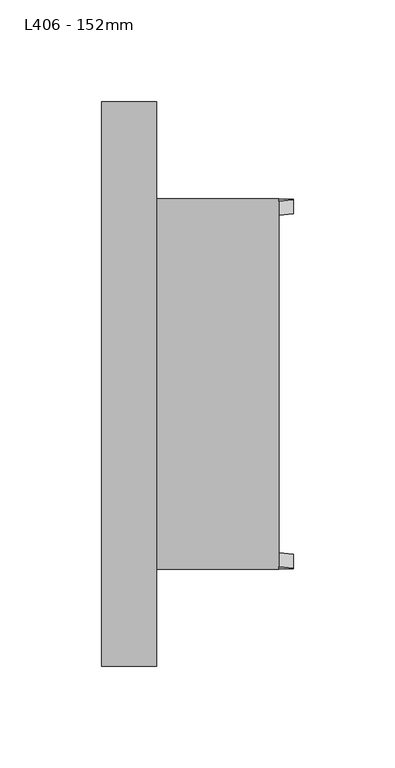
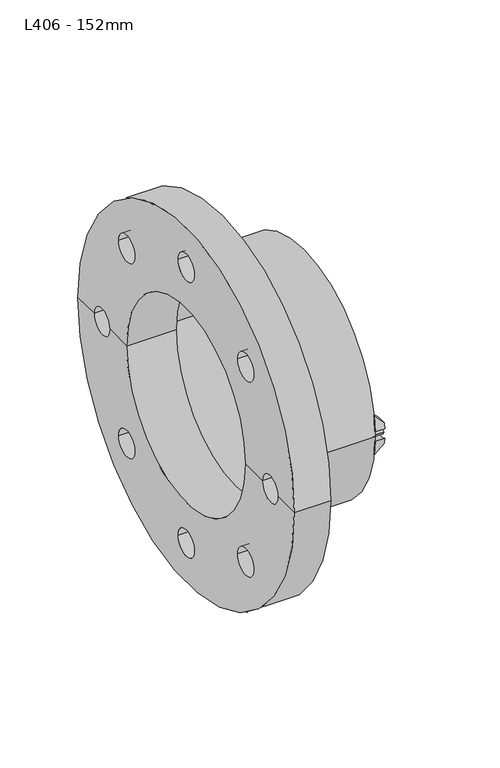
"""IFC4 building model written with IfcOpenShell, lengths in millimetres: pipe fitting geometry, Durapipe_PipeFitting_VulcatheneEnfusion_Flange_L40 : L406 - 152mm."""

from ifc_helpers import new_model, si_unit, point, frame, frame_2d, origin, place, context, project, spatial, polyline, circle_curve, ellipse_curve, trimmed, segment, composite_curve, outline, extrude, source, transform, mapped, element, save
from ifc_brep_helpers import plane_surface, cylinder_surface, revolved_surface, advanced_brep


def l406_152mm_0153d5b7(model_context):
    return source(origin(), model_context, "Body", "SolidModel", [
        advanced_brep(
        [(50.75, -84.1733314, -3.5934351), (50.75, -90.9733314, -3.7357018), (50.75, -90.7031361, -7.94), (50.75, -83.8750195, -7.94), (43.65, -89.8059157, -15.0), (43.65, -90.9733314, -3.7357018), (43.65, -84.1733314, -3.5934351), (43.65, -82.9039354, -15.0)],
        [
            (0, 1, circle_curve(frame((50.75, -87.65, 0.0), z_axis=(-1.0, 0.0, 0.0), x_axis=(0.0, 1.0, 0.0)), 5.0)),
            (1, 2, circle_curve(frame((50.75, 0.0, 0.0), z_axis=(1.0, 0.0, 0.0), x_axis=(0.0, 1.0, 0.0)), 91.05)),
            (2, 3),
            (3, 0, circle_curve(frame((50.75, 0.0, 0.0), z_axis=(-1.0, 0.0, 0.0), x_axis=(0.0, 1.0, 0.0)), 84.25)),
            (4, 5, circle_curve(frame((43.65, 0.0, 0.0), z_axis=(-1.0, 0.0, 0.0), x_axis=(0.0, 1.0, 0.0)), 91.05)),
            (5, 6, circle_curve(frame((43.65, -87.65, 0.0), z_axis=(1.0, 0.0, 0.0), x_axis=(0.0, 1.0, 0.0)), 5.0)),
            (6, 7, circle_curve(frame((43.65, 0.0, 0.0), z_axis=(1.0, 0.0, 0.0), x_axis=(0.0, 1.0, 0.0)), 84.25)),
            (7, 4),
            (6, 0),
            (3, 7, ellipse_curve(frame((58.7349858, 0.0, 0.0), z_axis=(0.7051064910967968, 0.0, -0.7091014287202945), x_axis=(-0.7091014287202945, 0.0, -0.7051064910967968)), 119.4854977, 84.25)),
            (4, 2, ellipse_curve(frame((58.7349858, 0.0, 0.0), z_axis=(-0.7051064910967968, 0.0, 0.7091014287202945), x_axis=(0.7091014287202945, 0.0, 0.7051064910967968)), 129.129431, 91.05)),
            (1, 5),
        ],
        [
            plane_surface(frame((50.75, -89.8059157, -15.0), z_axis=(1.0, 0.0, 0.0), x_axis=(0.0, 1.0, 0.0))),
            plane_surface(frame((43.65, -89.8059157, -15.0), z_axis=(-1.0, 0.0, 0.0), x_axis=(0.0, -1.0, 0.0))),
            revolved_surface(polyline([(-25.992351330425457, 84.25, 0.0), (143.46232293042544, 84.25, 0.0)]), (43.65, 0.0, 0.0), (-1.0, 0.0, 0.0)),
            cylinder_surface(frame((43.65, 0.0, 0.0), z_axis=(1.0, 0.0, 0.0), x_axis=(0.0, 1.0, 0.0)), 91.05),
            revolved_surface(polyline([(50.75, -82.65, 0.0), (43.65, -82.65, 0.0)]), (43.65, -87.65, 0.0), (1.0, 0.0, 0.0)),
            plane_surface(frame((43.65, 91.05, -15.0), z_axis=(0.7051064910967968, 0.0, -0.7091014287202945), x_axis=(0.0, -1.0, 0.0))),
        ],
        [
            (0, [[1, 2, 3, 4]]),
            (1, [[5, 6, 7, 8]]),
            (2, [[-7, 9, -4, 10]]),
            (3, [[-5, 11, -2, 12]]),
            (4, [[-1, -9, -6, -12]]),
            (5, [[-3, -11, -8, -10]]),
        ],
    ),
        advanced_brep(
        [(50.75, -90.9733314, 3.7357018), (50.75, -84.1733314, 3.5934351), (50.75, -83.8750195, 7.94), (50.75, -90.7031361, 7.94), (43.65, -90.9733314, 3.7357018), (43.65, -89.8059157, 15.0), (43.65, -82.9039354, 15.0), (43.65, -84.1733314, 3.5934351)],
        [
            (0, 1, circle_curve(frame((50.75, -87.65, 0.0), z_axis=(-1.0, 0.0, 0.0), x_axis=(0.0, 1.0, 0.0)), 5.0)),
            (1, 2, circle_curve(frame((50.75, 0.0, 0.0), z_axis=(-1.0, 0.0, 0.0), x_axis=(0.0, 1.0, 0.0)), 84.25)),
            (2, 3),
            (3, 0, circle_curve(frame((50.75, 0.0, 0.0), z_axis=(1.0, 0.0, 0.0), x_axis=(0.0, 1.0, 0.0)), 91.05)),
            (4, 5, circle_curve(frame((43.65, 0.0, 0.0), z_axis=(-1.0, 0.0, 0.0), x_axis=(0.0, 1.0, 0.0)), 91.05)),
            (5, 6),
            (6, 7, circle_curve(frame((43.65, 0.0, 0.0), z_axis=(1.0, 0.0, 0.0), x_axis=(0.0, 1.0, 0.0)), 84.25)),
            (7, 4, circle_curve(frame((43.65, -87.65, 0.0), z_axis=(1.0, 0.0, 0.0), x_axis=(0.0, 1.0, 0.0)), 5.0)),
            (6, 2, ellipse_curve(frame((58.7349858, 0.0, 0.0), z_axis=(0.7051064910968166, 0.0, 0.7091014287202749), x_axis=(-0.7091014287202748, 0.0, 0.7051064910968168)), 119.4854977, 84.25)),
            (1, 7),
            (4, 0),
            (3, 5, ellipse_curve(frame((58.7349858, 0.0, 0.0), z_axis=(-0.7051064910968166, 0.0, -0.7091014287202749), x_axis=(0.7091014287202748, 0.0, -0.7051064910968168)), 129.129431, 91.05)),
        ],
        [
            plane_surface(frame((50.75, -89.8059157, -15.0), z_axis=(1.0, 0.0, 0.0), x_axis=(0.0, 1.0, 0.0))),
            plane_surface(frame((43.65, -89.8059157, -15.0), z_axis=(-1.0, 0.0, 0.0), x_axis=(0.0, -1.0, 0.0))),
            revolved_surface(polyline([(-25.992351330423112, 84.25, 0.0), (143.4623229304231, 84.25, 0.0)]), (43.65, 0.0, 0.0), (-1.0, 0.0, 0.0)),
            cylinder_surface(frame((43.65, 0.0, 0.0), z_axis=(1.0, 0.0, 0.0), x_axis=(0.0, 1.0, 0.0)), 91.05),
            revolved_surface(polyline([(50.75, -82.65, 0.0), (43.65, -82.65, 0.0)]), (43.65, -87.65, 0.0), (1.0, 0.0, 0.0)),
            plane_surface(frame((50.75, 91.05, 7.94), z_axis=(0.7051064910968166, 0.0, 0.7091014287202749), x_axis=(0.0, -1.0, 0.0))),
        ],
        [
            (0, [[1, 2, 3, 4]]),
            (1, [[5, 6, 7, 8]]),
            (2, [[-7, 9, -2, 10]]),
            (3, [[-5, 11, -4, 12]]),
            (4, [[-1, -11, -8, -10]]),
            (5, [[-3, -9, -6, -12]]),
        ],
    ),
        advanced_brep(
        [(50.75, 90.9733314, -3.7357018), (50.75, 84.1733314, -3.5934351), (50.75, 83.8750195, -7.94), (50.75, 90.7031361, -7.94), (43.65, 90.9733314, -3.7357018), (43.65, 89.8059157, -15.0), (43.65, 82.9039354, -15.0), (43.65, 84.1733314, -3.5934351)],
        [
            (0, 1, circle_curve(frame((50.75, 87.65, 0.0), z_axis=(-1.0, 0.0, 0.0), x_axis=(0.0, 1.0, 0.0)), 5.0)),
            (1, 2, circle_curve(frame((50.75, 0.0, 0.0), z_axis=(-1.0, 0.0, 0.0), x_axis=(0.0, 1.0, 0.0)), 84.25)),
            (2, 3),
            (3, 0, circle_curve(frame((50.75, 0.0, 0.0), z_axis=(1.0, 0.0, 0.0), x_axis=(0.0, 1.0, 0.0)), 91.05)),
            (4, 5, circle_curve(frame((43.65, 0.0, 0.0), z_axis=(-1.0, 0.0, 0.0), x_axis=(0.0, 1.0, 0.0)), 91.05)),
            (5, 6),
            (6, 7, circle_curve(frame((43.65, 0.0, 0.0), z_axis=(1.0, 0.0, 0.0), x_axis=(0.0, 1.0, 0.0)), 84.25)),
            (7, 4, circle_curve(frame((43.65, 87.65, 0.0), z_axis=(1.0, 0.0, 0.0), x_axis=(0.0, 1.0, 0.0)), 5.0)),
            (6, 2, ellipse_curve(frame((58.7349858, 0.0, 0.0), z_axis=(0.7051064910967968, 0.0, -0.7091014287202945), x_axis=(-0.7091014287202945, 0.0, -0.7051064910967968)), 119.4854977, 84.25)),
            (1, 7),
            (4, 0),
            (3, 5, ellipse_curve(frame((58.7349858, 0.0, 0.0), z_axis=(-0.7051064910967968, 0.0, 0.7091014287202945), x_axis=(0.7091014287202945, 0.0, 0.7051064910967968)), 129.129431, 91.05)),
        ],
        [
            plane_surface(frame((50.75, -89.8059157, -15.0), z_axis=(1.0, 0.0, 0.0), x_axis=(0.0, 1.0, 0.0))),
            plane_surface(frame((43.65, -89.8059157, -15.0), z_axis=(-1.0, 0.0, 0.0), x_axis=(0.0, -1.0, 0.0))),
            revolved_surface(polyline([(-25.992351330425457, 84.25, 0.0), (143.46232293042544, 84.25, 0.0)]), (43.65, 0.0, 0.0), (-1.0, 0.0, 0.0)),
            cylinder_surface(frame((43.65, 0.0, 0.0), z_axis=(1.0, 0.0, 0.0), x_axis=(0.0, 1.0, 0.0)), 91.05),
            revolved_surface(polyline([(50.75, 92.65, 0.0), (43.65, 92.65, 0.0)]), (43.65, 87.65, 0.0), (1.0, 0.0, 0.0)),
            plane_surface(frame((43.65, 91.05, -15.0), z_axis=(0.7051064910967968, 0.0, -0.7091014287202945), x_axis=(0.0, -1.0, 0.0))),
        ],
        [
            (0, [[1, 2, 3, 4]]),
            (1, [[5, 6, 7, 8]]),
            (2, [[-7, 9, -2, 10]]),
            (3, [[-5, 11, -4, 12]]),
            (4, [[-1, -11, -8, -10]]),
            (5, [[-3, -9, -6, -12]]),
        ],
    ),
        advanced_brep(
        [(50.75, 84.1733314, 3.5934351), (50.75, 90.9733314, 3.7357018), (50.75, 90.7031361, 7.94), (50.75, 83.8750195, 7.94), (43.65, 89.8059157, 15.0), (43.65, 90.9733314, 3.7357018), (43.65, 84.1733314, 3.5934351), (43.65, 82.9039354, 15.0)],
        [
            (0, 1, circle_curve(frame((50.75, 87.65, 0.0), z_axis=(-1.0, 0.0, 0.0), x_axis=(0.0, 1.0, 0.0)), 5.0)),
            (1, 2, circle_curve(frame((50.75, 0.0, 0.0), z_axis=(1.0, 0.0, 0.0), x_axis=(0.0, 1.0, 0.0)), 91.05)),
            (2, 3),
            (3, 0, circle_curve(frame((50.75, 0.0, 0.0), z_axis=(-1.0, 0.0, 0.0), x_axis=(0.0, 1.0, 0.0)), 84.25)),
            (4, 5, circle_curve(frame((43.65, 0.0, 0.0), z_axis=(-1.0, 0.0, 0.0), x_axis=(0.0, 1.0, 0.0)), 91.05)),
            (5, 6, circle_curve(frame((43.65, 87.65, 0.0), z_axis=(1.0, 0.0, 0.0), x_axis=(0.0, 1.0, 0.0)), 5.0)),
            (6, 7, circle_curve(frame((43.65, 0.0, 0.0), z_axis=(1.0, 0.0, 0.0), x_axis=(0.0, 1.0, 0.0)), 84.25)),
            (7, 4),
            (6, 0),
            (3, 7, ellipse_curve(frame((58.7349858, 0.0, 0.0), z_axis=(0.7051064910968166, 0.0, 0.7091014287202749), x_axis=(-0.7091014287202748, 0.0, 0.7051064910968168)), 119.4854977, 84.25)),
            (4, 2, ellipse_curve(frame((58.7349858, 0.0, 0.0), z_axis=(-0.7051064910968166, 0.0, -0.7091014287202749), x_axis=(0.7091014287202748, 0.0, -0.7051064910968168)), 129.129431, 91.05)),
            (1, 5),
        ],
        [
            plane_surface(frame((50.75, -89.8059157, -15.0), z_axis=(1.0, 0.0, 0.0), x_axis=(0.0, 1.0, 0.0))),
            plane_surface(frame((43.65, -89.8059157, -15.0), z_axis=(-1.0, 0.0, 0.0), x_axis=(0.0, -1.0, 0.0))),
            revolved_surface(polyline([(-25.992351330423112, 84.25, 0.0), (143.4623229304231, 84.25, 0.0)]), (43.65, 0.0, 0.0), (-1.0, 0.0, 0.0)),
            cylinder_surface(frame((43.65, 0.0, 0.0), z_axis=(1.0, 0.0, 0.0), x_axis=(0.0, 1.0, 0.0)), 91.05),
            revolved_surface(polyline([(50.75, 92.65, 0.0), (43.65, 92.65, 0.0)]), (43.65, 87.65, 0.0), (1.0, 0.0, 0.0)),
            plane_surface(frame((50.75, 91.05, 7.94), z_axis=(0.7051064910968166, 0.0, 0.7091014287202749), x_axis=(0.0, -1.0, 0.0))),
        ],
        [
            (0, [[1, 2, 3, 4]]),
            (1, [[5, 6, 7, 8]]),
            (2, [[-7, 9, -4, 10]]),
            (3, [[-5, 11, -2, 12]]),
            (4, [[-1, -9, -6, -12]]),
            (5, [[-3, -11, -8, -10]]),
        ],
    ),
        extrude(outline(composite_curve([segment(trimmed(circle_curve(frame_2d((-87.65, 0.0)), 2.0), [point((-89.65, 0.0))], [point((-85.65, 0.0))], False, "CARTESIAN"), True, "CONTINUOUS"), segment(trimmed(circle_curve(frame_2d((-87.65, 0.0)), 2.0), [point((-85.65, 0.0))], [point((-89.65, 0.0))], False, "CARTESIAN"), True, "CONTINUOUS")], self_intersect=False)), frame((43.65, 0.0, 0.0), z_axis=(1.0, 0.0, 0.0), x_axis=(0.0, 1.0, 0.0)), (0.0, 0.0, 1.0), 7.1),
        extrude(outline(composite_curve([segment(trimmed(circle_curve(frame_2d((87.65, 0.0)), 2.0), [point((85.65, 0.0))], [point((89.65, 0.0))], False, "CARTESIAN"), True, "CONTINUOUS"), segment(trimmed(circle_curve(frame_2d((87.65, 0.0)), 2.0), [point((89.65, 0.0))], [point((85.65, 0.0))], False, "CARTESIAN"), True, "CONTINUOUS")], self_intersect=False)), frame((43.65, 0.0, 0.0), z_axis=(1.0, 0.0, 0.0), x_axis=(0.0, 1.0, 0.0)), (0.0, 0.0, 1.0), 7.1),
        advanced_brep(
        [(-43.65, -76.3, 0.0), (-43.65, 76.3, 0.0), (-43.65, 97.7, 0.0), (-43.65, 118.3, 0.0), (-43.65, 138.9, 0.0), (-43.65, -138.9, 0.0), (-43.65, -118.3, 0.0), (-43.65, -97.7, 0.0), (-43.65, -10.3, -108.0), (-43.65, 10.3, -108.0), (-43.65, -86.6675324, -76.3675324), (-43.65, -66.0675324, -76.3675324), (-43.65, 66.0675324, -76.3675324), (-43.65, 86.6675324, -76.3675324), (-43.65, -10.3, 108.0), (-43.65, 10.3, 108.0), (-43.65, 66.0675324, 76.3675324), (-43.65, 86.6675324, 76.3675324), (-43.65, -86.6675324, 76.3675324), (-43.65, -66.0675324, 76.3675324), (-7.15, -76.3, 0.0), (-7.15, 76.3, 0.0), (-7.15, -84.1, 0.0), (-7.15, 84.1, 0.0), (43.65, -84.1, 0.0), (43.65, 84.1, 0.0), (43.65, -91.2, 0.0), (43.65, 91.2, 0.0), (-16.65, -91.2, 0.0), (-16.65, 91.2, 0.0), (-16.65, -97.7, 0.0), (-16.65, -118.3, 0.0), (-16.65, -138.9, 0.0), (-16.65, 138.9, 0.0), (-16.65, 118.3, 0.0), (-16.65, 97.7, 0.0), (-16.65, 10.3, -108.0), (-16.65, -10.3, -108.0), (-16.65, -66.0675324, -76.3675324), (-16.65, -86.6675324, -76.3675324), (-16.65, 86.6675324, -76.3675324), (-16.65, 66.0675324, -76.3675324), (-16.65, 10.3, 108.0), (-16.65, -10.3, 108.0), (-16.65, 86.6675324, 76.3675324), (-16.65, 66.0675324, 76.3675324), (-16.65, -66.0675324, 76.3675324), (-16.65, -86.6675324, 76.3675324)],
        [
            (0, 1, circle_curve(frame((-43.65, 0.0, 0.0), z_axis=(1.0, 0.0, 0.0), x_axis=(0.0, 1.0, 0.0)), 76.3)),
            (1, 2),
            (2, 3, circle_curve(frame((-43.65, 108.0, 0.0), z_axis=(1.0, 0.0, 0.0), x_axis=(0.0, 1.0, 0.0)), 10.3)),
            (3, 4),
            (4, 5, circle_curve(frame((-43.65, 0.0, 0.0), z_axis=(-1.0, 0.0, 0.0), x_axis=(0.0, 1.0, 0.0)), 138.9)),
            (5, 6),
            (6, 7, circle_curve(frame((-43.65, -108.0, 0.0), z_axis=(1.0, 0.0, 0.0), x_axis=(0.0, 1.0, 0.0)), 10.3)),
            (7, 0),
            (8, 9, circle_curve(frame((-43.65, 0.0, -108.0), z_axis=(1.0, 0.0, 0.0), x_axis=(0.0, 1.0, 0.0)), 10.3)),
            (9, 8, circle_curve(frame((-43.65, 0.0, -108.0), z_axis=(1.0, 0.0, 0.0), x_axis=(0.0, 1.0, 0.0)), 10.3)),
            (10, 11, circle_curve(frame((-43.65, -76.3675324, -76.3675324), z_axis=(1.0, 0.0, 0.0), x_axis=(0.0, 1.0, 0.0)), 10.3)),
            (11, 10, circle_curve(frame((-43.65, -76.3675324, -76.3675324), z_axis=(1.0, 0.0, 0.0), x_axis=(0.0, 1.0, 0.0)), 10.3)),
            (12, 13, circle_curve(frame((-43.65, 76.3675324, -76.3675324), z_axis=(1.0, 0.0, 0.0), x_axis=(0.0, 1.0, 0.0)), 10.3)),
            (13, 12, circle_curve(frame((-43.65, 76.3675324, -76.3675324), z_axis=(1.0, 0.0, 0.0), x_axis=(0.0, 1.0, 0.0)), 10.3)),
            (1, 0, circle_curve(frame((-43.65, 0.0, 0.0), z_axis=(1.0, 0.0, 0.0), x_axis=(0.0, 1.0, 0.0)), 76.3)),
            (7, 6, circle_curve(frame((-43.65, -108.0, 0.0), z_axis=(1.0, 0.0, 0.0), x_axis=(0.0, 1.0, 0.0)), 10.3)),
            (5, 4, circle_curve(frame((-43.65, 0.0, 0.0), z_axis=(-1.0, 0.0, 0.0), x_axis=(0.0, 1.0, 0.0)), 138.9)),
            (3, 2, circle_curve(frame((-43.65, 108.0, 0.0), z_axis=(1.0, 0.0, 0.0), x_axis=(0.0, 1.0, 0.0)), 10.3)),
            (14, 15, circle_curve(frame((-43.65, 0.0, 108.0), z_axis=(1.0, 0.0, 0.0), x_axis=(0.0, 1.0, 0.0)), 10.3)),
            (15, 14, circle_curve(frame((-43.65, 0.0, 108.0), z_axis=(1.0, 0.0, 0.0), x_axis=(0.0, 1.0, 0.0)), 10.3)),
            (16, 17, circle_curve(frame((-43.65, 76.3675324, 76.3675324), z_axis=(1.0, 0.0, 0.0), x_axis=(0.0, 1.0, 0.0)), 10.3)),
            (17, 16, circle_curve(frame((-43.65, 76.3675324, 76.3675324), z_axis=(1.0, 0.0, 0.0), x_axis=(0.0, 1.0, 0.0)), 10.3)),
            (18, 19, circle_curve(frame((-43.65, -76.3675324, 76.3675324), z_axis=(1.0, 0.0, 0.0), x_axis=(0.0, 1.0, 0.0)), 10.3)),
            (19, 18, circle_curve(frame((-43.65, -76.3675324, 76.3675324), z_axis=(1.0, 0.0, 0.0), x_axis=(0.0, 1.0, 0.0)), 10.3)),
            (0, 20),
            (20, 21, circle_curve(frame((-7.15, 0.0, 0.0), z_axis=(1.0, 0.0, 0.0), x_axis=(0.0, 1.0, 0.0)), 76.3)),
            (21, 1),
            (21, 20, circle_curve(frame((-7.15, 0.0, 0.0), z_axis=(1.0, 0.0, 0.0), x_axis=(0.0, 1.0, 0.0)), 76.3)),
            (20, 22),
            (22, 23, circle_curve(frame((-7.15, 0.0, 0.0), z_axis=(1.0, 0.0, 0.0), x_axis=(0.0, 1.0, 0.0)), 84.1)),
            (23, 21),
            (23, 22, circle_curve(frame((-7.15, 0.0, 0.0), z_axis=(1.0, 0.0, 0.0), x_axis=(0.0, 1.0, 0.0)), 84.1)),
            (22, 24),
            (24, 25, circle_curve(frame((43.65, 0.0, 0.0), z_axis=(1.0, 0.0, 0.0), x_axis=(0.0, 1.0, 0.0)), 84.1)),
            (25, 23),
            (25, 24, circle_curve(frame((43.65, 0.0, 0.0), z_axis=(1.0, 0.0, 0.0), x_axis=(0.0, 1.0, 0.0)), 84.1)),
            (24, 26),
            (26, 27, circle_curve(frame((43.65, 0.0, 0.0), z_axis=(1.0, 0.0, 0.0), x_axis=(0.0, 1.0, 0.0)), 91.2)),
            (27, 25),
            (27, 26, circle_curve(frame((43.65, 0.0, 0.0), z_axis=(1.0, 0.0, 0.0), x_axis=(0.0, 1.0, 0.0)), 91.2)),
            (26, 28),
            (28, 29, circle_curve(frame((-16.65, 0.0, 0.0), z_axis=(1.0, 0.0, 0.0), x_axis=(0.0, 1.0, 0.0)), 91.2)),
            (29, 27),
            (29, 28, circle_curve(frame((-16.65, 0.0, 0.0), z_axis=(1.0, 0.0, 0.0), x_axis=(0.0, 1.0, 0.0)), 91.2)),
            (28, 30),
            (30, 31, circle_curve(frame((-16.65, -108.0, 0.0), z_axis=(-1.0, 0.0, 0.0), x_axis=(0.0, 1.0, 0.0)), 10.3)),
            (31, 32),
            (32, 33, circle_curve(frame((-16.65, 0.0, 0.0), z_axis=(1.0, 0.0, 0.0), x_axis=(0.0, 1.0, 0.0)), 138.9)),
            (33, 34),
            (34, 35, circle_curve(frame((-16.65, 108.0, 0.0), z_axis=(-1.0, 0.0, 0.0), x_axis=(0.0, 1.0, 0.0)), 10.3)),
            (35, 29),
            (36, 37, circle_curve(frame((-16.65, 0.0, -108.0), z_axis=(-1.0, 0.0, 0.0), x_axis=(0.0, 1.0, 0.0)), 10.3)),
            (37, 36, circle_curve(frame((-16.65, 0.0, -108.0), z_axis=(-1.0, 0.0, 0.0), x_axis=(0.0, 1.0, 0.0)), 10.3)),
            (38, 39, circle_curve(frame((-16.65, -76.3675324, -76.3675324), z_axis=(-1.0, 0.0, 0.0), x_axis=(0.0, 1.0, 0.0)), 10.3)),
            (39, 38, circle_curve(frame((-16.65, -76.3675324, -76.3675324), z_axis=(-1.0, 0.0, 0.0), x_axis=(0.0, 1.0, 0.0)), 10.3)),
            (40, 41, circle_curve(frame((-16.65, 76.3675324, -76.3675324), z_axis=(-1.0, 0.0, 0.0), x_axis=(0.0, 1.0, 0.0)), 10.3)),
            (41, 40, circle_curve(frame((-16.65, 76.3675324, -76.3675324), z_axis=(-1.0, 0.0, 0.0), x_axis=(0.0, 1.0, 0.0)), 10.3)),
            (35, 34, circle_curve(frame((-16.65, 108.0, 0.0), z_axis=(-1.0, 0.0, 0.0), x_axis=(0.0, 1.0, 0.0)), 10.3)),
            (33, 32, circle_curve(frame((-16.65, 0.0, 0.0), z_axis=(1.0, 0.0, 0.0), x_axis=(0.0, 1.0, 0.0)), 138.9)),
            (31, 30, circle_curve(frame((-16.65, -108.0, 0.0), z_axis=(-1.0, 0.0, 0.0), x_axis=(0.0, 1.0, 0.0)), 10.3)),
            (42, 43, circle_curve(frame((-16.65, 0.0, 108.0), z_axis=(-1.0, 0.0, 0.0), x_axis=(0.0, 1.0, 0.0)), 10.3)),
            (43, 42, circle_curve(frame((-16.65, 0.0, 108.0), z_axis=(-1.0, 0.0, 0.0), x_axis=(0.0, 1.0, 0.0)), 10.3)),
            (44, 45, circle_curve(frame((-16.65, 76.3675324, 76.3675324), z_axis=(-1.0, 0.0, 0.0), x_axis=(0.0, 1.0, 0.0)), 10.3)),
            (45, 44, circle_curve(frame((-16.65, 76.3675324, 76.3675324), z_axis=(-1.0, 0.0, 0.0), x_axis=(0.0, 1.0, 0.0)), 10.3)),
            (46, 47, circle_curve(frame((-16.65, -76.3675324, 76.3675324), z_axis=(-1.0, 0.0, 0.0), x_axis=(0.0, 1.0, 0.0)), 10.3)),
            (47, 46, circle_curve(frame((-16.65, -76.3675324, 76.3675324), z_axis=(-1.0, 0.0, 0.0), x_axis=(0.0, 1.0, 0.0)), 10.3)),
            (4, 33),
            (32, 5),
            (42, 15),
            (14, 43),
            (30, 7),
            (6, 31),
            (36, 9),
            (8, 37),
            (34, 3),
            (2, 35),
            (44, 17),
            (16, 45),
            (46, 19),
            (18, 47),
            (38, 11),
            (10, 39),
            (40, 13),
            (12, 41),
        ],
        [
            plane_surface(frame((-43.65, 0.0, 0.0), z_axis=(-1.0, 0.0, 0.0), x_axis=(0.0, 1.0, 0.0))),
            revolved_surface(polyline([(-43.65000000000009, 76.3, 0.0), (-7.150000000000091, 76.3, 0.0)]), (1586.1272424, 0.0, 0.0), (-1.0, 0.0, 0.0)),
            plane_surface(frame((-7.15, 0.0, 0.0), z_axis=(1.0, 0.0, 0.0), x_axis=(0.0, 1.0, 0.0))),
            revolved_surface(polyline([(-7.150000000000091, 84.1, 0.0), (43.65000000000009, 84.1, 0.0)]), (1586.1272424, 0.0, 0.0), (-1.0, 0.0, 0.0)),
            plane_surface(frame((43.65, 0.0, 0.0), z_axis=(1.0, 0.0, 0.0), x_axis=(0.0, 1.0, 0.0))),
            cylinder_surface(frame((1586.1272424, 0.0, 0.0), z_axis=(-1.0, 0.0, 0.0), x_axis=(0.0, 1.0, 0.0)), 91.2),
            plane_surface(frame((-16.65, 0.0, 0.0), z_axis=(1.0, 0.0, 0.0), x_axis=(0.0, 1.0, 0.0))),
            cylinder_surface(frame((1586.1272424, 0.0, 0.0), z_axis=(-1.0, 0.0, 0.0), x_axis=(0.0, 1.0, 0.0)), 138.9),
            revolved_surface(polyline([(-16.65, 10.3, 108.0), (-43.65, 10.3, 108.0)]), (-43.65, 0.0, 108.0), (1.0, 0.0, 0.0)),
            revolved_surface(polyline([(-16.65, -97.7, 0.0), (-43.65, -97.7, 0.0)]), (0.0, -108.0, 0.0), (1.0, 0.0, 0.0)),
            revolved_surface(polyline([(-16.65, 10.3, -108.0), (-43.65, 10.3, -108.0)]), (0.0, 0.0, -108.0), (1.0, 0.0, 0.0)),
            revolved_surface(polyline([(-16.65, 118.3, 0.0), (-43.65, 118.3, 0.0)]), (0.0, 108.0, 0.0), (1.0, 0.0, 0.0)),
            revolved_surface(polyline([(-16.65, 86.6675324, 76.3675324), (-43.65, 86.6675324, 76.3675324)]), (-43.65, 76.3675324, 76.3675324), (1.0, 0.0, 0.0)),
            revolved_surface(polyline([(-16.65, -66.0675324, 76.3675324), (-43.65, -66.0675324, 76.3675324)]), (0.0, -76.3675324, 76.3675324), (1.0, 0.0, 0.0)),
            revolved_surface(polyline([(-16.65, -66.0675324, -76.3675324), (-43.65, -66.0675324, -76.3675324)]), (0.0, -76.3675324, -76.3675324), (1.0, 0.0, 0.0)),
            revolved_surface(polyline([(-16.65, 86.6675324, -76.3675324), (-43.65, 86.6675324, -76.3675324)]), (0.0, 76.3675324, -76.3675324), (1.0, 0.0, 0.0)),
        ],
        [
            (0, [[1, 2, 3, 4, 5, 6, 7, 8], [9, 10], [11, 12], [13, 14]]),
            (0, [[15, -8, 16, -6, 17, -4, 18, -2], [19, 20], [21, 22], [23, 24]]),
            (1, [[-1, 25, 26, 27]]),
            (1, [[-15, -27, 28, -25]]),
            (2, [[-26, 29, 30, 31]]),
            (2, [[-28, -31, 32, -29]]),
            (3, [[-30, 33, 34, 35]]),
            (3, [[-32, -35, 36, -33]]),
            (4, [[-34, 37, 38, 39]]),
            (4, [[-36, -39, 40, -37]]),
            (5, [[-38, 41, 42, 43]]),
            (5, [[-40, -43, 44, -41]]),
            (6, [[-42, 45, 46, 47, 48, 49, 50, 51], [52, 53], [54, 55], [56, 57]]),
            (6, [[-44, -51, 58, -49, 59, -47, 60, -45], [61, 62], [63, 64], [65, 66]]),
            (7, [[-5, 67, -48, 68]]),
            (7, [[-17, -68, -59, -67]]),
            (8, [[69, -19, 70, -61]]),
            (8, [[-69, -62, -70, -20]]),
            (9, [[71, -7, 72, -46]]),
            (9, [[-71, -60, -72, -16]]),
            (10, [[73, -9, 74, -52]]),
            (10, [[-73, -53, -74, -10]]),
            (11, [[75, -3, 76, -50]]),
            (11, [[-75, -58, -76, -18]]),
            (12, [[77, -21, 78, -63]]),
            (12, [[-77, -64, -78, -22]]),
            (13, [[79, -23, 80, -65]]),
            (13, [[-79, -66, -80, -24]]),
            (14, [[81, -11, 82, -54]]),
            (14, [[-81, -55, -82, -12]]),
            (15, [[83, -13, 84, -56]]),
            (15, [[-83, -57, -84, -14]]),
        ],
    ),
    ])


if __name__ == "__main__":
    model = new_model("IFC4")
    model_context = context("Model", 3, world=origin())
    ifc_project = project(units=[si_unit("LENGTHUNIT", "METRE", prefix="MILLI")], contexts=[model_context])
    site = spatial("IfcSite", under=ifc_project)
    building = spatial("IfcBuilding", under=site)
    placement = place(None, origin())
    l406_152mm_shape = l406_152mm_0153d5b7(model_context)
    element("IfcPipeFitting", 1, ObjectType="Durapipe_PipeFitting_VulcatheneEnfusion_Flange_L40 : L406 - 152mm", at=placement, inside=building, context=model_context, shape_type="MappedRepresentation", body=[
        mapped(l406_152mm_shape, transform((0.0, 0.0, 0.0), x_axis=(1.0, 0.0, 0.0), y_axis=(0.0, 1.0, 0.0), z_axis=(0.0, 0.0, 1.0))),
    ])
    save(model, "model.ifc")
